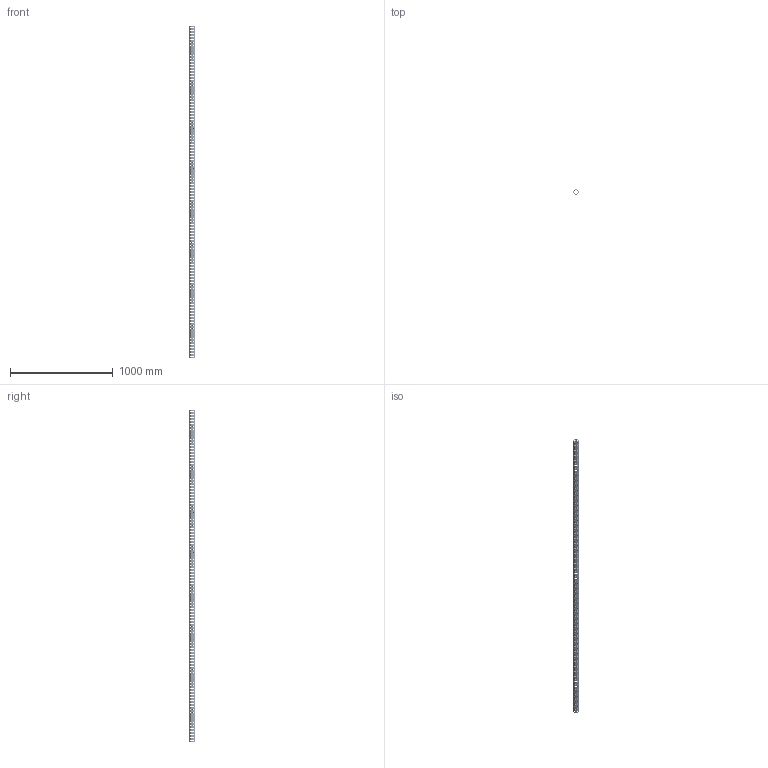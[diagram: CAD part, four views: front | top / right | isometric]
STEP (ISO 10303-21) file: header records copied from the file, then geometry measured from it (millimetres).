
FILE_DESCRIPTION(('CATIA V5 STEP Exchange'),'2;1');
FILE_NAME('U:\Room\唐宝山\EGT002\46-01-010337-01-EGT002-3238.stp','2021-08-24T07:25:10+00:00',('none'),('none'),'CATIA Version 5 Release 21 GA (IN-10)','CATIA V5 STEP AP203','none');
FILE_SCHEMA(('CONFIG_CONTROL_DESIGN'));
Products named in the file (1): 46-01-010337-01-EGT002-3238
Bounding box: 50 x 50 x 3238 mm (x, y, z)
Volume: 2307216.6 mm3; surface area: 1111221.5 mm2
Topology: 1 solids, 1 shells, 4404 faces, 12126 edges, 7508 vertices
Faces by surface type: cone 2592, cylinder 1786, plane 26
Entity records: 178939 total; most frequent: CARTESIAN_POINT 72096, ORIENTED_EDGE 24252, DIRECTION 17271, EDGE_CURVE 12126, AXIS2_PLACEMENT_3D 8202, VERTEX_POINT 7508, EDGE_LOOP 5918, VECTOR 4666
